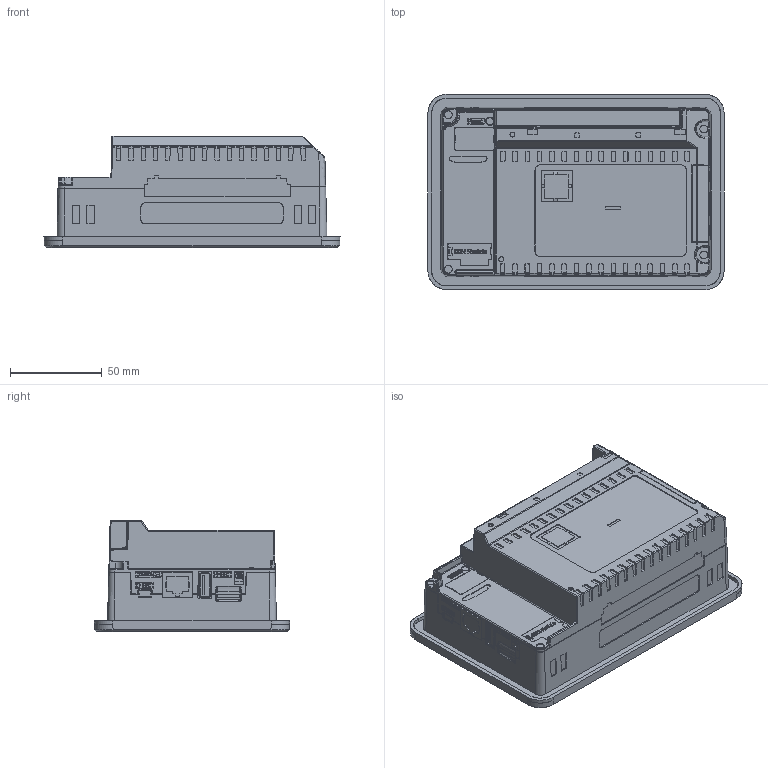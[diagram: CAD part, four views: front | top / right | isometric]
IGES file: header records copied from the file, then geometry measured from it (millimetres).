
Start section: SolidWorks IGES file using analytic representation for surfaces
Global section: file name: D:\Project\UniStream\UniPitzi\CAD Files\3D\IGES\USP5 3D CAD.IGS; native system: SolidWorks 2015; preprocessor: SolidWorks 2015; author: baraki; date: 170103.100825; units: millimetre
Bounding box: 161.31 x 106.31 x 60.7 mm (x, y, z)
Surface area: 66989.3 mm2 (no closed solid volume)
Topology: 0 solids, 0 shells, 2472 faces, 21027 edges, 20994 vertices
Faces by surface type: bspline 1884, revolution 588
